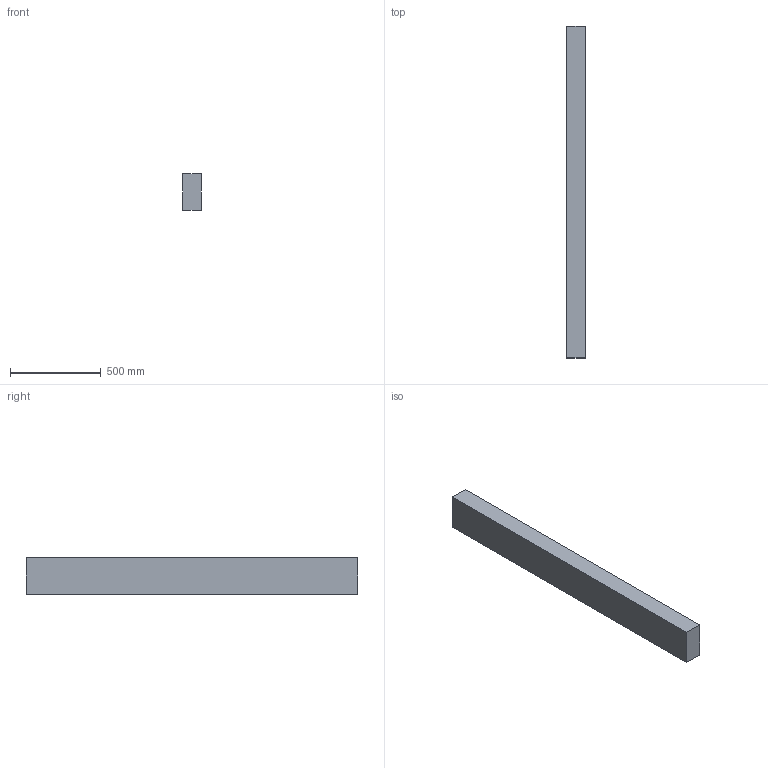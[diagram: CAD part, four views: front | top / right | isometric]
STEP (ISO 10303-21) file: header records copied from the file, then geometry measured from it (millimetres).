
FILE_DESCRIPTION(/* description */ (''),/* implementation_level */ '2;1');
FILE_NAME(/* name */ '4x8x72',/* time_stamp */ '2024-09-20T11:45:42-05:00',/* author */ (''),/* organization */ (''),/* preprocessor_version */ 'ST-DEVELOPER v19.2',/* originating_system */ 'Rhino 8.5',/* authorisation */ '');
FILE_SCHEMA (('CONFIG_CONTROL_DESIGN'));
Length unit declared in the file: inch
Products named in the file (1): Document
Bounding box: 101.6 x 1828.8 x 203.2 mm (x, y, z)
Volume: 37755795.5 mm3; surface area: 1156126.7 mm2
Topology: 1 solids, 1 shells, 6 faces, 12 edges, 8 vertices
Faces by surface type: plane 6
Entity records: 226 total; most frequent: CARTESIAN_POINT 40, ORIENTED_EDGE 24, EDGE_CURVE 12, B_SPLINE_CURVE_WITH_KNOTS 12, DIRECTION 10, VERTEX_POINT 8, AXIS2_PLACEMENT_3D 8, ORGANIZATION 7
